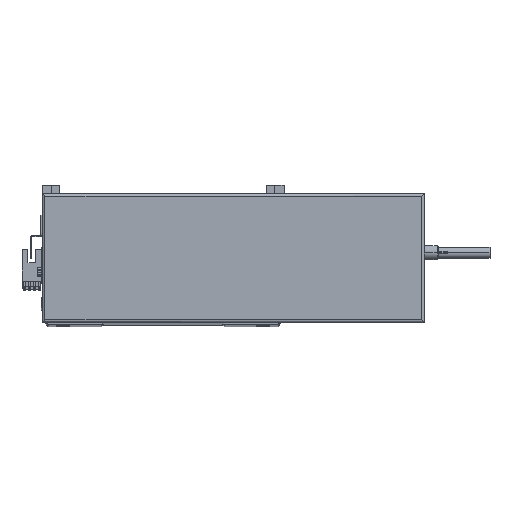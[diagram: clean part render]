
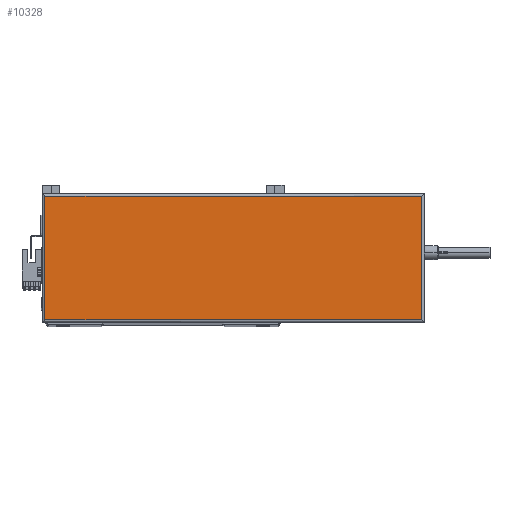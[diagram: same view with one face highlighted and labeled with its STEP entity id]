
A CAD part, top view. The second image highlights one B-rep face of the part: STEP entity #10328.
In plain terms, the highlighted planar face has unit normal (0, 0, 1).
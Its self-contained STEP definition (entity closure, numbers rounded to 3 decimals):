
#1113 = AXIS2_PLACEMENT_3D ( 'NONE', #12199, #48559, #36309 ) ;
#3734 = ORIENTED_EDGE ( 'NONE', *, *, #30186, .T. ) ;
#5145 = VERTEX_POINT ( 'NONE', #11853 ) ;
#6038 = DIRECTION ( 'NONE',  ( 1., 0., 0. ) ) ;
#7533 = FACE_OUTER_BOUND ( 'NONE', #20781, .T. ) ;
#9877 = CARTESIAN_POINT ( 'NONE',  ( 265., 90., 44.8 ) ) ;
#10229 = CARTESIAN_POINT ( 'NONE',  ( 267., 2., 44.8 ) ) ;
#10233 = EDGE_CURVE ( 'NONE', #31890, #5145, #35437, .T. ) ;
#10328 = ADVANCED_FACE ( 'NONE', ( #7533 ), #31864, .T. ) ;
#11853 = CARTESIAN_POINT ( 'NONE',  ( 265., 2., 44.8 ) ) ;
#12199 = CARTESIAN_POINT ( 'NONE',  ( 133.5, 45., 44.8 ) ) ;
#13775 = ORIENTED_EDGE ( 'NONE', *, *, #32862, .T. ) ;
#14088 = CARTESIAN_POINT ( 'NONE',  ( 2., 2., 44.8 ) ) ;
#14421 = VECTOR ( 'NONE', #48073, 1000. ) ;
#19006 = ORIENTED_EDGE ( 'NONE', *, *, #10233, .T. ) ;
#19175 = CARTESIAN_POINT ( 'NONE',  ( 2., 0., 44.8 ) ) ;
#20781 = EDGE_LOOP ( 'NONE', ( #33689, #3734, #13775, #19006 ) ) ;
#24047 = VECTOR ( 'NONE', #6038, 1000. ) ;
#25064 = CARTESIAN_POINT ( 'NONE',  ( 2., 88., 44.8 ) ) ;
#26426 = LINE ( 'NONE', #19175, #14421 ) ;
#26556 = CARTESIAN_POINT ( 'NONE',  ( 265., 88., 44.8 ) ) ;
#28042 = VECTOR ( 'NONE', #50479, 1000. ) ;
#30186 = EDGE_CURVE ( 'NONE', #33222, #50228, #33284, .T. ) ;
#31864 = PLANE ( 'NONE',  #1113 ) ;
#31890 = VERTEX_POINT ( 'NONE', #14088 ) ;
#32862 = EDGE_CURVE ( 'NONE', #50228, #31890, #26426, .T. ) ;
#33222 = VERTEX_POINT ( 'NONE', #26556 ) ;
#33284 = LINE ( 'NONE', #33833, #41544 ) ;
#33689 = ORIENTED_EDGE ( 'NONE', *, *, #36302, .T. ) ;
#33833 = CARTESIAN_POINT ( 'NONE',  ( 0., 88., 44.8 ) ) ;
#35437 = LINE ( 'NONE', #10229, #24047 ) ;
#36302 = EDGE_CURVE ( 'NONE', #5145, #33222, #48995, .T. ) ;
#36309 = DIRECTION ( 'NONE',  ( 1., 0., 0. ) ) ;
#41544 = VECTOR ( 'NONE', #41659, 1000. ) ;
#41659 = DIRECTION ( 'NONE',  ( -1., 0., 0. ) ) ;
#48073 = DIRECTION ( 'NONE',  ( 0., -1., 0. ) ) ;
#48559 = DIRECTION ( 'NONE',  ( 0., 0., 1. ) ) ;
#48995 = LINE ( 'NONE', #9877, #28042 ) ;
#50228 = VERTEX_POINT ( 'NONE', #25064 ) ;
#50479 = DIRECTION ( 'NONE',  ( 0., 1., 0. ) ) ;
